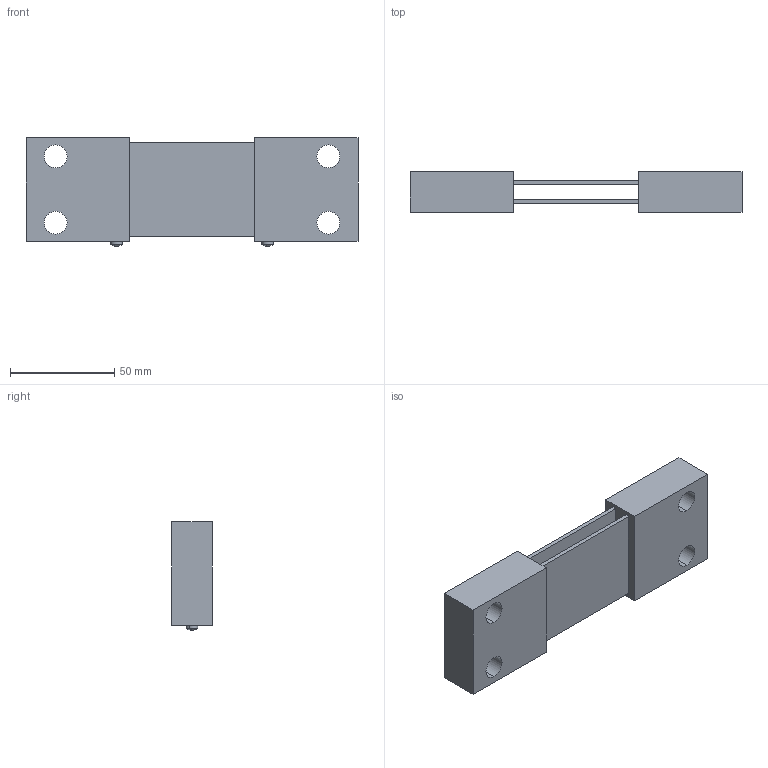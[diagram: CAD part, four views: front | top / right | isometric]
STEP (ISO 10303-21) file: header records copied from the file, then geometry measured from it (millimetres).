
FILE_DESCRIPTION((''),'2;1');
FILE_NAME('RTCS0500_75MV_ASM','2022-10-20T13:33:29',('Administrator'),(''),'CREO PARAMETRIC BY PTC INC, 2020053','CREO PARAMETRIC BY PTC INC, 2020053','');
FILE_SCHEMA(('CONFIG_CONTROL_DESIGN'));
Length unit declared in the file: millimetre
Products named in the file (6): 500A_75MV000; CROSS_RECESSED_PAN_HEAD_SCREW_1; 500A_50MV_0001; 500A_50MV_00; RTCS0500_75MV_1_ASM; RTCS0500_75MV_ASM
Assembly tree (7 placements, depth 3):
  RTCS0500_75MV_ASM
    RTCS0500_75MV_1_ASM
      500A_75MV000  x2
      CROSS_RECESSED_PAN_HEAD_SCREW_1  x2
      500A_50MV_0001
      500A_50MV_00
Bounding box: 159 x 19.5 x 51.87 mm (x, y, z)
Volume: 99097.1 mm3; surface area: 33848.5 mm2
Topology: 6 solids, 6 shells, 334 faces, 907 edges, 604 vertices
Faces by surface type: plane 185, extrusion 97, cylinder 44, sphere 4, cone 4
Entity records: 10073 total; most frequent: CARTESIAN_POINT 2516, ORIENTED_EDGE 1650, DIRECTION 1260, EDGE_CURVE 825, VECTOR 622, VERTEX_POINT 552, LINE 525, EDGE_LOOP 333
